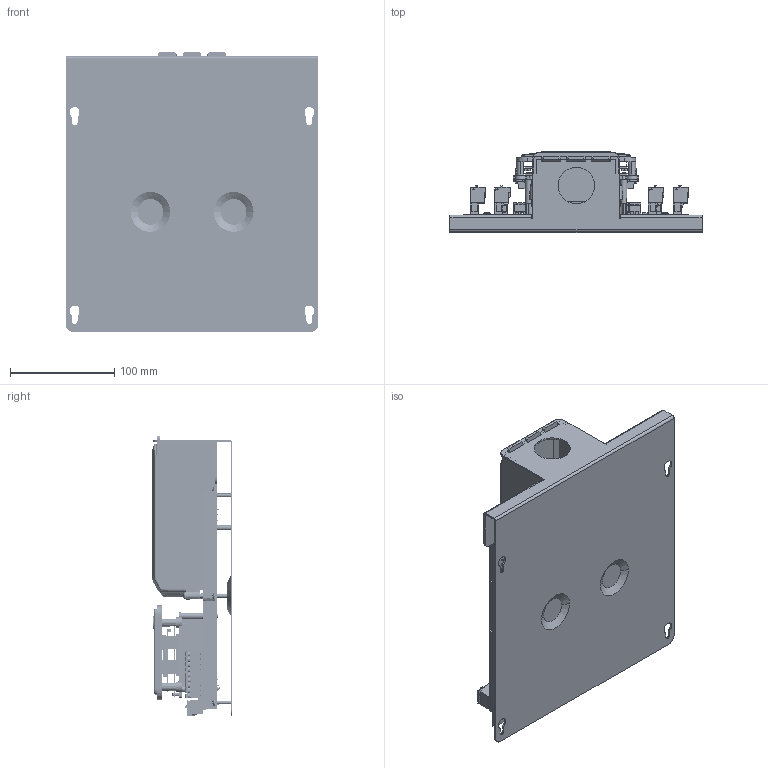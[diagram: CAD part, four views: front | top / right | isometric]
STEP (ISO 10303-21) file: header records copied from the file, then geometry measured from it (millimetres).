
FILE_DESCRIPTION (( 'STEP AP203' ), '1' );
FILE_NAME ('PS48HD PLATE.STEP', '2020-06-19T19:57:41', ( '' ), ( '' ), 'SwSTEP 2.0', 'SolidWorks 2018', '' );
FILE_SCHEMA (( 'CONFIG_CONTROL_DESIGN' ));
Length unit declared in the file: millimetre
Products named in the file (1): PS48HD PLATE
Bounding box: 241.3 x 77.21 x 267.63 mm (x, y, z)
Surface area: 430794.7 mm2 (no closed solid volume)
Topology: 0 solids, 429 shells, 4368 faces, 18853 edges, 14571 vertices
Faces by surface type: plane 3331, cylinder 552, cone 270, bspline 169, torus 30, sphere 16
Entity records: 210421 total; most frequent: CARTESIAN_POINT 62387, DIRECTION 29006, ORIENTED_EDGE 26280, EDGE_CURVE 18853, VERTEX_POINT 14571, VECTOR 13428, LINE 13428, AXIS2_PLACEMENT_3D 7789
